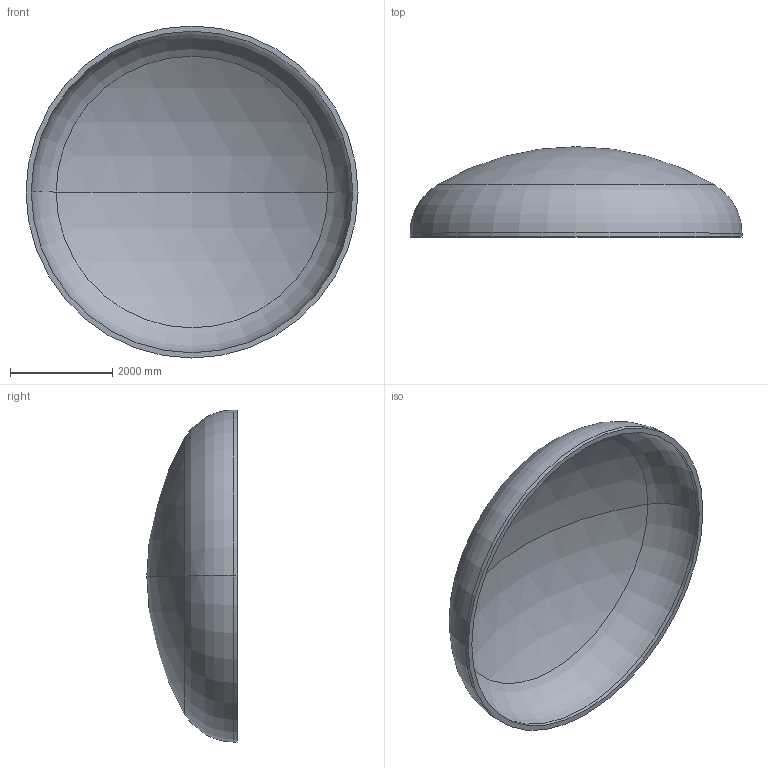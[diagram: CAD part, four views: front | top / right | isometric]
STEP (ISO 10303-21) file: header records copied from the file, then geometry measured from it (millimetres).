
FILE_DESCRIPTION (( 'STEP AP203' ), '1' );
FILE_NAME ('DIN 28013 Korbbogenform_-_Boden DIN 28013 - 6500 x 75 - I - s=102.step', '2016-07-04T10:44:02', ( '' ), ( '' ), 'SwSTEP 2.0', 'SolidWorks 2013', '' );
FILE_SCHEMA (( 'CONFIG_CONTROL_DESIGN' ));
Length unit declared in the file: millimetre
Products named in the file (1): DIN 28013 Korbbogenform_-_Boden DIN 28013 - 6500 x 75 - I - s=102
Bounding box: 6500 x 1767.83 x 6500 mm (x, y, z)
Volume: 4744472355.2 mm3; surface area: 95100815.2 mm2
Topology: 1 solids, 1 shells, 13 faces, 24 edges, 14 vertices
Faces by surface type: torus 4, cylinder 4, sphere 4, plane 1
Entity records: 407 total; most frequent: DIRECTION 72, CARTESIAN_POINT 52, ORIENTED_EDGE 48, AXIS2_PLACEMENT_3D 34, EDGE_CURVE 24, CIRCLE 20, VERTEX_POINT 14, EDGE_LOOP 14
